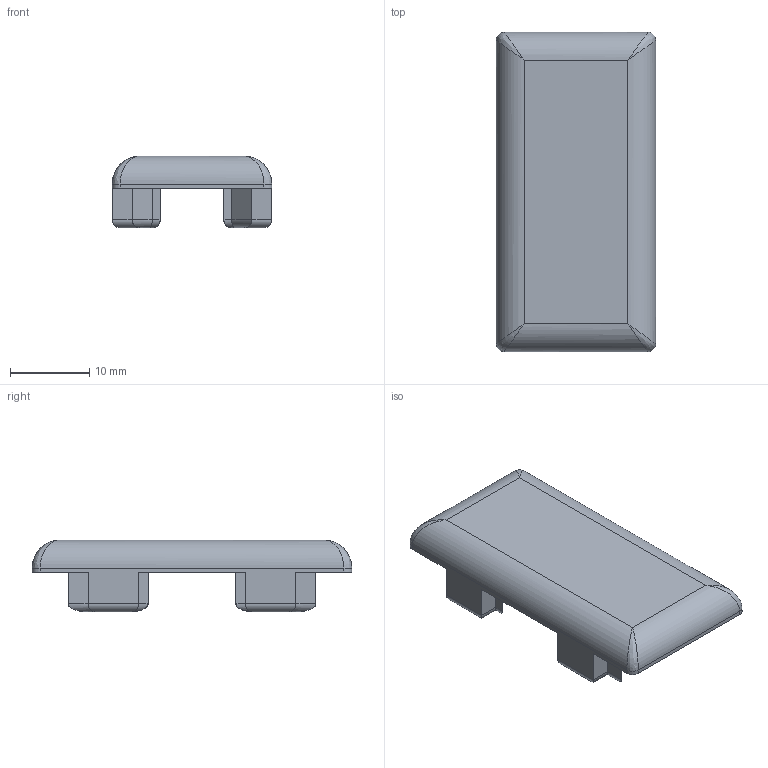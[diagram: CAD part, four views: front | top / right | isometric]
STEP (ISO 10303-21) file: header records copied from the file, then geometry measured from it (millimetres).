
FILE_DESCRIPTION(/* description */ (''),/* implementation_level */ '2;1');
FILE_NAME(/* name */ '4_endcap_JARVIS_airpath.step',/* time_stamp */ '2023-06-05T13:35:46+02:00',/* author */ (''),/* organization */ (''),/* preprocessor_version */ 'ST-DEVELOPER v19.2',/* originating_system */ 'Autodesk Translation Framework v12.6.0.85',/* authorisation */ '');
FILE_SCHEMA (('AUTOMOTIVE_DESIGN { 1 0 10303 214 3 1 1 }'));
Length unit declared in the file: millimetre
Products named in the file (1): 4_endcap_JARVIS_airpath
Bounding box: 20.07 x 40.2 x 9.04 mm (x, y, z)
Volume: 3716.1 mm3; surface area: 2437.5 mm2
Topology: 1 solids, 1 shells, 96 faces, 238 edges, 140 vertices
Faces by surface type: cylinder 46, plane 46, bspline 4
Entity records: 2922 total; most frequent: CARTESIAN_POINT 587, DIRECTION 480, ORIENTED_EDGE 468, EDGE_CURVE 234, LINE 174, VECTOR 174, AXIS2_PLACEMENT_3D 153, VERTEX_POINT 140
